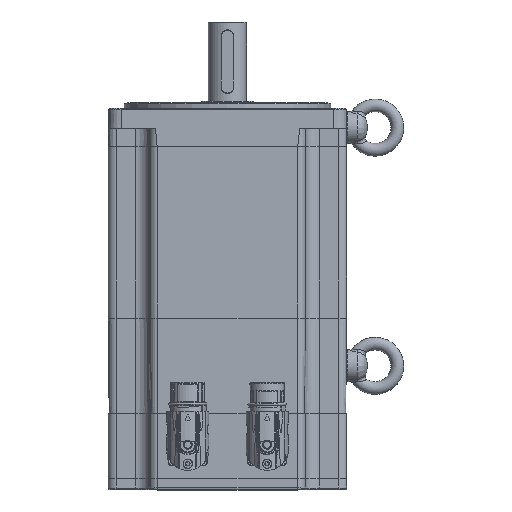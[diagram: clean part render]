
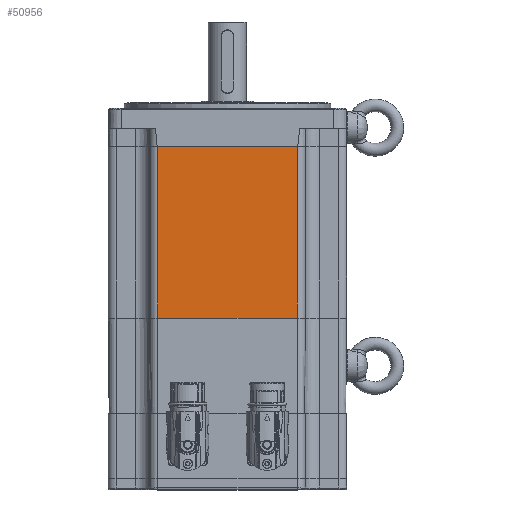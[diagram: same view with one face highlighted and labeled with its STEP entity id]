
A CAD part, top view. The second image highlights one B-rep face of the part: STEP entity #50956.
In plain terms, the highlighted planar face has unit normal (0, 0, 1).
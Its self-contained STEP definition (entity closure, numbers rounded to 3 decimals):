
#3017=LINE('',#83387,#5092);
#3020=LINE('',#83420,#5095);
#3038=LINE('',#83498,#5113);
#3039=LINE('',#83499,#5114);
#5092=VECTOR('',#62612,1000.);
#5095=VECTOR('',#62643,1000.);
#5113=VECTOR('',#62721,1000.);
#5114=VECTOR('',#62722,1000.);
#6068=PLANE('',#54392);
#16057=ORIENTED_EDGE('',*,*,#22082,.F.);
#16058=ORIENTED_EDGE('',*,*,#22135,.T.);
#16059=ORIENTED_EDGE('',*,*,#22098,.T.);
#16060=ORIENTED_EDGE('',*,*,#22136,.T.);
#22082=EDGE_CURVE('',#25894,#25895,#3017,.T.);
#22098=EDGE_CURVE('',#25911,#25909,#3020,.T.);
#22135=EDGE_CURVE('',#25894,#25911,#3038,.T.);
#22136=EDGE_CURVE('',#25909,#25895,#3039,.F.);
#25894=VERTEX_POINT('',#83386);
#25895=VERTEX_POINT('',#83388);
#25909=VERTEX_POINT('',#83418);
#25911=VERTEX_POINT('',#83421);
#30181=EDGE_LOOP('',(#16057,#16058,#16059,#16060));
#33113=FACE_BOUND('',#30181,.T.);
#50956=ADVANCED_FACE('',(#33113),#6068,.T.);
#54392=AXIS2_PLACEMENT_3D('',#83497,#62719,#62720);
#62612=DIRECTION('',(0.,-1.,0.));
#62643=DIRECTION('',(0.,-1.,0.));
#62719=DIRECTION('',(0.,0.,1.));
#62720=DIRECTION('',(0.,-1.,0.));
#62721=DIRECTION('',(-1.,0.,0.));
#62722=DIRECTION('',(-1.,0.,0.));
#83386=CARTESIAN_POINT('',(-1.,44.,75.));
#83387=CARTESIAN_POINT('',(-1.,75.,75.));
#83388=CARTESIAN_POINT('',(-1.,-44.,75.));
#83418=CARTESIAN_POINT('',(-109.,-44.,75.));
#83420=CARTESIAN_POINT('',(-109.,75.,75.));
#83421=CARTESIAN_POINT('',(-109.,44.,75.));
#83497=CARTESIAN_POINT('',(-300.,75.,75.));
#83498=CARTESIAN_POINT('',(-300.,44.,75.));
#83499=CARTESIAN_POINT('',(0.,-44.,75.));
